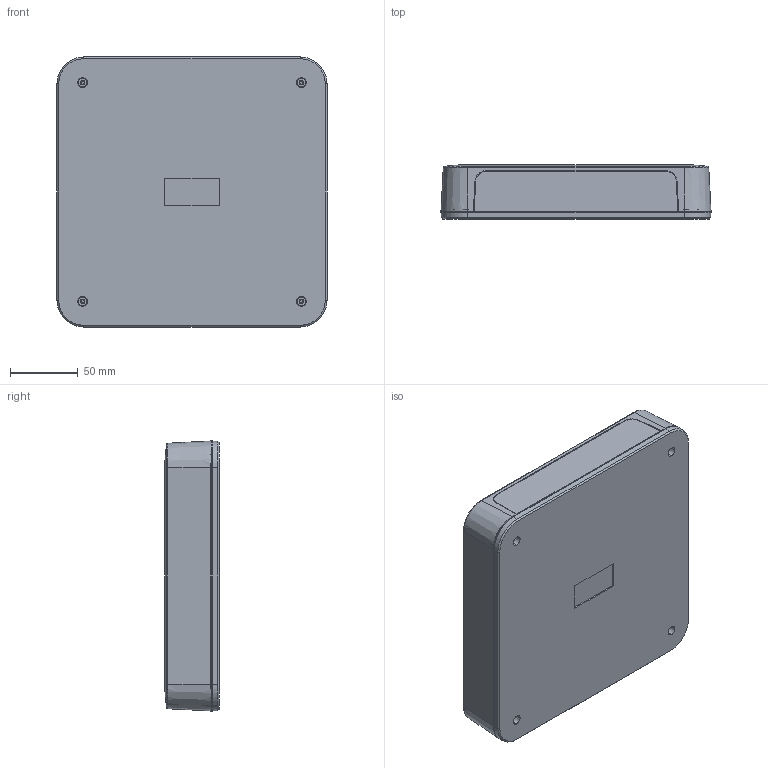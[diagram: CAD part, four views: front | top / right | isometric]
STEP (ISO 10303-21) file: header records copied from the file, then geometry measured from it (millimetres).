
FILE_DESCRIPTION (( 'STEP AP203' ), '1' );
FILE_NAME ('HH-2020-0-0.STEP', '2024-10-31T08:45:53', ( '' ), ( '' ), 'SwSTEP 2.0', 'SolidWorks 2021', '' );
FILE_SCHEMA (( 'CONFIG_CONTROL_DESIGN' ));
Length unit declared in the file: millimetre
Products named in the file (4): HH-2020-P-1; HH-2020-P-3; HH-2020-0-0; HH-2020-P-2
Assembly tree (3 placements, depth 2):
  HH-2020-0-0
    HH-2020-P-2
    HH-2020-P-1
    HH-2020-P-3
Bounding box: 200 x 40 x 200 mm (x, y, z)
Volume: 316302.1 mm3; surface area: 225611.3 mm2
Topology: 3 solids, 3 shells, 493 faces, 1172 edges, 760 vertices
Faces by surface type: plane 213, cone 202, cylinder 62, bspline 12, torus 4
Entity records: 15272 total; most frequent: CARTESIAN_POINT 3247, DIRECTION 2500, ORIENTED_EDGE 2344, EDGE_CURVE 1172, AXIS2_PLACEMENT_3D 951, VERTEX_POINT 760, LINE 598, VECTOR 598
